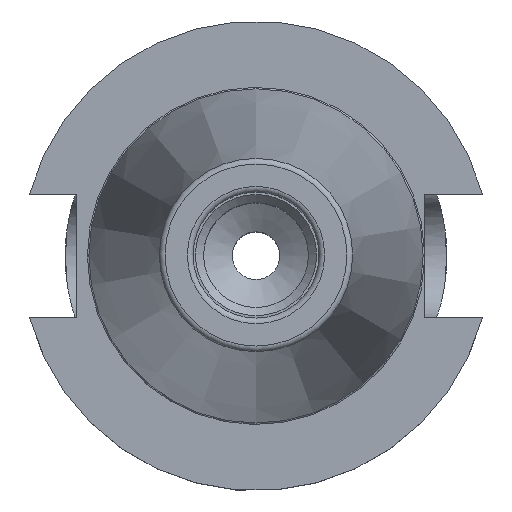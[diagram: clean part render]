
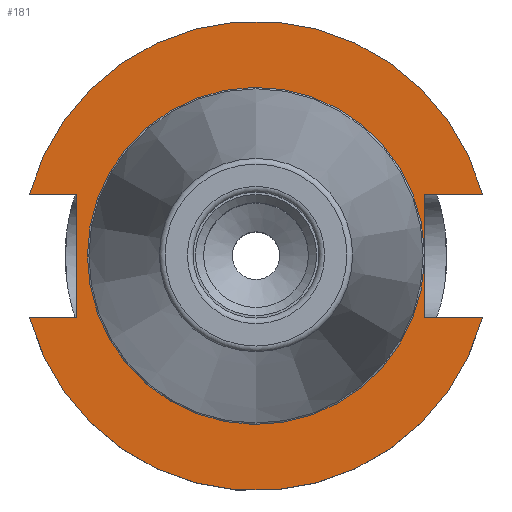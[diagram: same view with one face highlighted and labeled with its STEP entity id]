
A CAD part, top view. The second image highlights one B-rep face of the part: STEP entity #181.
In plain terms, the highlighted planar face has unit normal (0, 0, 1).
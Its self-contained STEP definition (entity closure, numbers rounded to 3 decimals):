
#181 = ADVANCED_FACE( '', ( #387 ), #388, .F. );
#387 = FACE_OUTER_BOUND( '', #598, .T. );
#388 = PLANE( '', #599 );
#598 = EDGE_LOOP( '', ( #1024, #1025, #1026, #1027, #1028, #1029, #1030, #1031, #1032, #1033 ) );
#599 = AXIS2_PLACEMENT_3D( '', #1034, #1035, #1036 );
#1024 = ORIENTED_EDGE( '', *, *, #1133, .F. );
#1025 = ORIENTED_EDGE( '', *, *, #1259, .F. );
#1026 = ORIENTED_EDGE( '', *, *, #1245, .T. );
#1027 = ORIENTED_EDGE( '', *, *, #1277, .T. );
#1028 = ORIENTED_EDGE( '', *, *, #1231, .F. );
#1029 = ORIENTED_EDGE( '', *, *, #1257, .F. );
#1030 = ORIENTED_EDGE( '', *, *, #1162, .T. );
#1031 = ORIENTED_EDGE( '', *, *, #1149, .F. );
#1032 = ORIENTED_EDGE( '', *, *, #1241, .T. );
#1033 = ORIENTED_EDGE( '', *, *, #1147, .F. );
#1034 = CARTESIAN_POINT( '', ( 0., 35.388, -3.175 ) );
#1035 = DIRECTION( '', ( 0., 0., -1. ) );
#1036 = DIRECTION( '', ( 0., 1., 0. ) );
#1133 = EDGE_CURVE( '', #1331, #1333, #1334, .T. );
#1147 = EDGE_CURVE( '', #1333, #1355, #1356, .T. );
#1149 = EDGE_CURVE( '', #1357, #1359, #1360, .T. );
#1162 = EDGE_CURVE( '', #1381, #1359, #1382, .T. );
#1231 = EDGE_CURVE( '', #1486, #1488, #1489, .T. );
#1241 = EDGE_CURVE( '', #1357, #1355, #1500, .T. );
#1245 = EDGE_CURVE( '', #1505, #1503, #1506, .T. );
#1257 = EDGE_CURVE( '', #1381, #1486, #1521, .T. );
#1259 = EDGE_CURVE( '', #1505, #1331, #1523, .T. );
#1277 = EDGE_CURVE( '', #1503, #1488, #1544, .T. );
#1331 = VERTEX_POINT( '', #1675 );
#1333 = VERTEX_POINT( '', #1678 );
#1334 = LINE( '', #1679, #1680 );
#1355 = VERTEX_POINT( '', #1707 );
#1356 = LINE( '', #1708, #1709 );
#1357 = VERTEX_POINT( '', #1710 );
#1359 = VERTEX_POINT( '', #1713 );
#1360 = LINE( '', #1714, #1715 );
#1381 = VERTEX_POINT( '', #1750 );
#1382 = LINE( '', #1751, #1752 );
#1486 = VERTEX_POINT( '', #1917 );
#1488 = VERTEX_POINT( '', #1920 );
#1489 = LINE( '', #1921, #1922 );
#1500 = CIRCLE( '', #1934, 35.323 );
#1503 = VERTEX_POINT( '', #1938 );
#1505 = VERTEX_POINT( '', #1941 );
#1506 = LINE( '', #1942, #1943 );
#1521 = CIRCLE( '', #1974, 49.213 );
#1523 = CIRCLE( '', #1976, 49.213 );
#1544 = LINE( '', #2042, #2043 );
#1675 = CARTESIAN_POINT( '', ( 47.477, 12.954, -3.175 ) );
#1678 = CARTESIAN_POINT( '', ( 35.306, 12.954, -3.175 ) );
#1679 = CARTESIAN_POINT( '', ( 85.306, 12.954, -3.175 ) );
#1680 = VECTOR( '', #2076, 1000. );
#1707 = CARTESIAN_POINT( '', ( 35.306, 1.11, -3.175 ) );
#1708 = CARTESIAN_POINT( '', ( 35.306, 12.954, -3.175 ) );
#1709 = VECTOR( '', #2095, 1000. );
#1710 = CARTESIAN_POINT( '', ( 35.306, -1.11, -3.175 ) );
#1713 = CARTESIAN_POINT( '', ( 35.306, -12.954, -3.175 ) );
#1714 = CARTESIAN_POINT( '', ( 35.306, 12.954, -3.175 ) );
#1715 = VECTOR( '', #2097, 1000. );
#1750 = CARTESIAN_POINT( '', ( 47.477, -12.954, -3.175 ) );
#1751 = CARTESIAN_POINT( '', ( 85.306, -12.954, -3.175 ) );
#1752 = VECTOR( '', #2115, 1000. );
#1917 = CARTESIAN_POINT( '', ( -47.477, -12.954, -3.175 ) );
#1920 = CARTESIAN_POINT( '', ( -37.719, -12.954, -3.175 ) );
#1921 = CARTESIAN_POINT( '', ( -87.719, -12.954, -3.175 ) );
#1922 = VECTOR( '', #2209, 1000. );
#1934 = AXIS2_PLACEMENT_3D( '', #2220, #2221, #2222 );
#1938 = CARTESIAN_POINT( '', ( -37.719, 12.954, -3.175 ) );
#1941 = CARTESIAN_POINT( '', ( -47.477, 12.954, -3.175 ) );
#1942 = CARTESIAN_POINT( '', ( -87.719, 12.954, -3.175 ) );
#1943 = VECTOR( '', #2225, 1000. );
#1974 = AXIS2_PLACEMENT_3D( '', #2235, #2236, #2237 );
#1976 = AXIS2_PLACEMENT_3D( '', #2238, #2239, #2240 );
#2042 = CARTESIAN_POINT( '', ( -37.719, 12.954, -3.175 ) );
#2043 = VECTOR( '', #2256, 1000. );
#2076 = DIRECTION( '', ( -1., 0., 0. ) );
#2095 = DIRECTION( '', ( 0., -1., 0. ) );
#2097 = DIRECTION( '', ( 0., -1., 0. ) );
#2115 = DIRECTION( '', ( -1., 0., 0. ) );
#2209 = DIRECTION( '', ( 1., 0., 0. ) );
#2220 = CARTESIAN_POINT( '', ( 0., 0., -3.175 ) );
#2221 = DIRECTION( '', ( 0., 0., -1. ) );
#2222 = DIRECTION( '', ( -1., 0., 0. ) );
#2225 = DIRECTION( '', ( 1., 0., 0. ) );
#2235 = CARTESIAN_POINT( '', ( 0., 0., -3.175 ) );
#2236 = DIRECTION( '', ( 0., 0., -1. ) );
#2237 = DIRECTION( '', ( 0., 1., 0. ) );
#2238 = CARTESIAN_POINT( '', ( 0., 0., -3.175 ) );
#2239 = DIRECTION( '', ( 0., 0., -1. ) );
#2240 = DIRECTION( '', ( 0., 1., 0. ) );
#2256 = DIRECTION( '', ( 0., -1., 0. ) );
